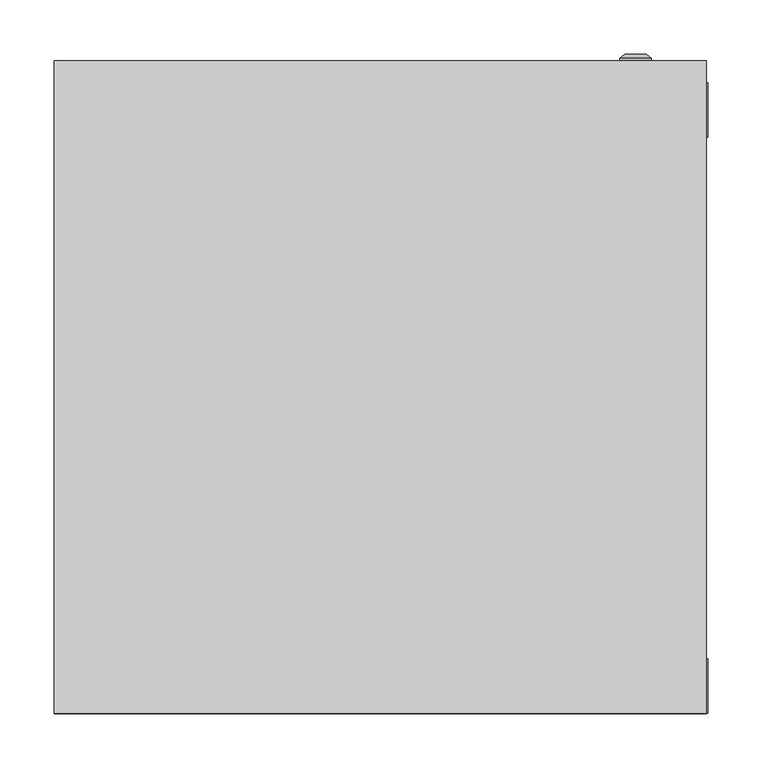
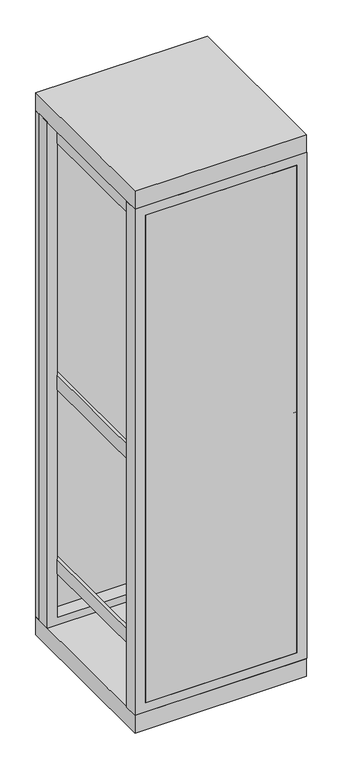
"""IFC4 building model written with IfcOpenShell, lengths in millimetres: proxy geometry, ВРУ-1 : ВРУ-1_2000х600х600."""

from ifc_helpers import new_model, si_unit, frame, origin, origin_with_axes, place, context, project, spatial, polyline, circle_curve, outline, extrude, source, transform, mapped, element, save
from ifc_brep_helpers import plane_surface, cylinder_surface, revolved_surface, advanced_brep


def electrical_equipment_4f927de0(model_context):
    return source(origin(), model_context, "Body", "SolidModel", [
        extrude(outline(polyline([(265.8707865, 0.0), (-263.3426966, 0.0), (-263.3426966, 10.0), (265.8707865, 10.0), (265.8707865, 0.0)])), frame((0.0, 0.0, 99.1378449), z_axis=(0.0, 0.0, 1.0), x_axis=(1.0, 0.0, 0.0)), (0.0, 0.0, 1.0), 1799.6160511),
        extrude(outline(polyline([(-255.8707865, 125.9831461), (-215.8707865, 125.9831461), (-215.8707865, 93.1179775), (-218.8707865, 93.1179775), (-218.8707865, 122.9831461), (-252.8707865, 122.9831461), (-252.8707865, 93.1179775), (-255.8707865, 93.1179775), (-255.8707865, 125.9831461)])), frame((0.0, 0.0, 189.6067416), z_axis=(0.0, 0.0, 1.0), x_axis=(1.0, 0.0, 0.0)), (0.0, 0.0, 1.0), 1745.3932584),
        extrude(outline(polyline([(215.8707865, 125.9831461), (255.8707865, 125.9831461), (255.8707865, 93.1179775), (252.8707865, 93.1179775), (252.8707865, 122.9831461), (218.8707865, 122.9831461), (218.8707865, 93.1179775), (215.8707865, 93.1179775), (215.8707865, 125.9831461)])), frame((0.0, 0.0, 189.6067416), z_axis=(0.0, 0.0, 1.0), x_axis=(1.0, 0.0, 0.0)), (0.0, 0.0, 1.0), 1745.3932584),
        extrude(outline(polyline([(-255.8707865, 10.0), (-265.8707865, 10.0), (-265.8707865, 580.0), (-255.8707865, 580.0), (-255.8707865, 10.0)])), frame((0.0, 0.0, 1845.5966059), z_axis=(0.0, 0.0, 1.0), x_axis=(1.0, 0.0, 0.0)), (0.0, 0.0, 1.0), 53.0898876),
        extrude(outline(polyline([(265.8707865, 10.0), (255.8707865, 10.0), (255.8707865, 580.0), (265.8707865, 580.0), (265.8707865, 10.0)])), frame((0.0, 0.0, 1845.5966059), z_axis=(0.0, 0.0, 1.0), x_axis=(1.0, 0.0, 0.0)), (0.0, 0.0, 1.0), 53.0898876),
        extrude(outline(polyline([(-255.8707865, 10.0), (-265.8707865, 10.0), (-265.8707865, 580.0), (-255.8707865, 580.0), (-255.8707865, 10.0)])), frame((0.0, 0.0, 255.5966059), z_axis=(0.0, 0.0, 1.0), x_axis=(1.0, 0.0, 0.0)), (0.0, 0.0, 1.0), 53.0898876),
        extrude(outline(polyline([(265.8707865, 10.0), (255.8707865, 10.0), (255.8707865, 580.0), (265.8707865, 580.0), (265.8707865, 10.0)])), frame((0.0, 0.0, 255.5966059), z_axis=(0.0, 0.0, 1.0), x_axis=(1.0, 0.0, 0.0)), (0.0, 0.0, 1.0), 53.0898876),
        extrude(outline(polyline([(-255.8707865, 10.0), (-265.8707865, 10.0), (-265.8707865, 580.0), (-255.8707865, 580.0), (-255.8707865, 10.0)])), frame((0.0, 0.0, 935.5966059), z_axis=(0.0, 0.0, 1.0), x_axis=(1.0, 0.0, 0.0)), (0.0, 0.0, 1.0), 53.0898876),
        extrude(outline(polyline([(265.8707865, 0.0), (255.8707865, 0.0), (255.8707865, 580.0), (265.8707865, 580.0), (265.8707865, 0.0)])), frame((0.0, 0.0, 935.5966059), z_axis=(0.0, 0.0, 1.0), x_axis=(1.0, 0.0, 0.0)), (0.0, 0.0, 1.0), 53.0898876),
        extrude(outline(polyline([(1934.1471543, -300.0), (65.0187804, -300.0), (65.0187804, 301.2640449), (1934.1471543, 301.2640449), (1934.1471543, -300.0)]), holes=[polyline([(99.1378449, 265.8707865), (99.1378449, -263.3426966), (1898.7538959, -263.3426966), (1898.7538959, 265.8707865), (99.1378449, 265.8707865)])]), frame((0.0, 0.0, 0.0), z_axis=(0.0, 1.0, 0.0), x_axis=(0.0, 0.0, 1.0)), (0.0, 0.0, 1.0), 50.0),
        extrude(outline(polyline([(1935.0, -300.0), (65.0187804, -300.0), (65.0187804, 301.2640449), (1935.0, 301.2640449), (1935.0, -300.0)]), holes=[polyline([(93.3701084, 265.8707865), (93.3701084, -263.3426966), (1892.9861595, -263.3426966), (1892.9861595, 265.8707865), (93.3701084, 265.8707865)])]), frame((0.0, 530.0, 0.0), z_axis=(0.0, 1.0, 0.0), x_axis=(0.0, 0.0, 1.0)), (0.0, 0.0, 1.0), 50.0),
        extrude(outline(polyline([(300.0067809, 600.0), (300.0067809, 0.0), (-300.0, 0.0), (-300.0, 600.0), (300.0067809, 600.0)])), frame((0.0, 0.0, 1935.0), z_axis=(0.0, 0.0, 1.0), x_axis=(1.0, 0.0, 0.0)), (0.0, 0.0, 1.0), 65.0),
        advanced_brep(
        [(220.669873, 600.0, 515.0), (249.330127, 600.0, 515.0), (235.0, 600.0, 515.0), (220.669873, 602.366592, 515.0), (249.330127, 602.366592, 515.0), (225.0, 606.0, 515.0), (245.0, 606.0, 515.0), (233.1080471, 606.0, 515.0), (236.8919529, 606.0, 515.0), (233.1080471, 604.9822294, 515.0), (236.8919529, 604.9822294, 515.0), (235.0, 604.9822294, 515.0)],
        [
            (0, 1, circle_curve(frame((235.0, 600.0, 515.0), z_axis=(0.0, -1.0, 0.0), x_axis=(1.0, 0.0, 0.0)), 14.330127)),
            (1, 2),
            (2, 0),
            (1, 0, circle_curve(frame((235.0, 600.0, 515.0), z_axis=(0.0, -1.0, 0.0), x_axis=(1.0, 0.0, 0.0)), 14.330127)),
            (3, 4, circle_curve(frame((235.0, 602.366592, 515.0), z_axis=(0.0, -1.0, 0.0), x_axis=(1.0, 0.0, 0.0)), 14.330127)),
            (4, 1),
            (0, 3),
            (4, 3, circle_curve(frame((235.0, 602.366592, 515.0), z_axis=(0.0, -1.0, 0.0), x_axis=(1.0, 0.0, 0.0)), 14.330127)),
            (5, 6, circle_curve(frame((235.0, 606.0, 515.0), z_axis=(0.0, -1.0, 0.0), x_axis=(1.0, 0.0, 0.0)), 10.0)),
            (6, 4),
            (3, 5),
            (6, 5, circle_curve(frame((235.0, 606.0, 515.0), z_axis=(0.0, -1.0, 0.0), x_axis=(1.0, 0.0, 0.0)), 10.0)),
            (7, 8, circle_curve(frame((235.0, 606.0, 515.0), z_axis=(0.0, -1.0, 0.0), x_axis=(1.0, 0.0, 0.0)), 1.8919529)),
            (8, 6),
            (5, 7),
            (8, 7, circle_curve(frame((235.0, 606.0, 515.0), z_axis=(0.0, -1.0, 0.0), x_axis=(1.0, 0.0, 0.0)), 1.8919529)),
            (9, 10, circle_curve(frame((235.0, 604.9822294, 515.0), z_axis=(0.0, -1.0, 0.0), x_axis=(1.0, 0.0, 0.0)), 1.8919529)),
            (10, 8),
            (7, 9),
            (10, 9, circle_curve(frame((235.0, 604.9822294, 515.0), z_axis=(0.0, -1.0, 0.0), x_axis=(1.0, 0.0, 0.0)), 1.8919529)),
            (11, 10),
            (9, 11),
        ],
        [
            plane_surface(frame((235.0, 600.0, 515.0), z_axis=(0.0, -1.0, 0.0), x_axis=(1.0, 0.0, 0.0))),
            cylinder_surface(frame((235.0, 613.1348851, 515.0), z_axis=(0.0, 1.0, 0.0), x_axis=(1.0, 0.0, 0.0)), 14.330127),
            revolved_surface(polyline([(249.330127, 602.366592, 515.0), (245.0, 606.0, 515.0)]), (235.0, 613.1348851, 515.0), (0.0, 1.0, 0.0)),
            plane_surface(frame((235.0, 606.0, 515.0), z_axis=(0.0, 1.0, 0.0), x_axis=(1.0, 0.0, 0.0))),
            revolved_surface(polyline([(236.8919529, 606.0, 515.0), (236.8919529, 604.9822294, 515.0)]), (235.0, 613.1348851, 515.0), (0.0, 1.0, 0.0)),
            plane_surface(frame((235.0, 604.9822294, 515.0), z_axis=(0.0, 1.0, 0.0), x_axis=(1.0, 0.0, 0.0))),
        ],
        [
            (0, [[1, 2, 3]]),
            (0, [[4, -3, -2]]),
            (1, [[5, 6, -1, 7]]),
            (1, [[8, -7, -4, -6]]),
            (2, [[9, 10, -5, 11]]),
            (2, [[12, -11, -8, -10]]),
            (3, [[13, 14, -9, 15]]),
            (3, [[16, -15, -12, -14]]),
            (4, [[17, 18, -13, 19]]),
            (4, [[20, -19, -16, -18]]),
            (5, [[21, -17, 22]]),
            (5, [[-22, -20, -21]]),
        ],
    ),
        advanced_brep(
        [(220.669873, 600.0, 1485.0), (249.330127, 600.0, 1485.0), (235.0, 600.0, 1485.0), (220.669873, 602.366592, 1485.0), (249.330127, 602.366592, 1485.0), (225.0, 606.0, 1485.0), (245.0, 606.0, 1485.0), (233.1080471, 606.0, 1485.0), (236.8919529, 606.0, 1485.0), (233.1080471, 604.9822294, 1485.0), (236.8919529, 604.9822294, 1485.0), (235.0, 604.9822294, 1485.0)],
        [
            (0, 1, circle_curve(frame((235.0, 600.0, 1485.0), z_axis=(0.0, -1.0, 0.0), x_axis=(1.0, 0.0, 0.0)), 14.330127)),
            (1, 2),
            (2, 0),
            (1, 0, circle_curve(frame((235.0, 600.0, 1485.0), z_axis=(0.0, -1.0, 0.0), x_axis=(1.0, 0.0, 0.0)), 14.330127)),
            (3, 4, circle_curve(frame((235.0, 602.366592, 1485.0), z_axis=(0.0, -1.0, 0.0), x_axis=(1.0, 0.0, 0.0)), 14.330127)),
            (4, 1),
            (0, 3),
            (4, 3, circle_curve(frame((235.0, 602.366592, 1485.0), z_axis=(0.0, -1.0, 0.0), x_axis=(1.0, 0.0, 0.0)), 14.330127)),
            (5, 6, circle_curve(frame((235.0, 606.0, 1485.0), z_axis=(0.0, -1.0, 0.0), x_axis=(1.0, 0.0, 0.0)), 10.0)),
            (6, 4),
            (3, 5),
            (6, 5, circle_curve(frame((235.0, 606.0, 1485.0), z_axis=(0.0, -1.0, 0.0), x_axis=(1.0, 0.0, 0.0)), 10.0)),
            (7, 8, circle_curve(frame((235.0, 606.0, 1485.0), z_axis=(0.0, -1.0, 0.0), x_axis=(1.0, 0.0, 0.0)), 1.8919529)),
            (8, 6),
            (5, 7),
            (8, 7, circle_curve(frame((235.0, 606.0, 1485.0), z_axis=(0.0, -1.0, 0.0), x_axis=(1.0, 0.0, 0.0)), 1.8919529)),
            (9, 10, circle_curve(frame((235.0, 604.9822294, 1485.0), z_axis=(0.0, -1.0, 0.0), x_axis=(1.0, 0.0, 0.0)), 1.8919529)),
            (10, 8),
            (7, 9),
            (10, 9, circle_curve(frame((235.0, 604.9822294, 1485.0), z_axis=(0.0, -1.0, 0.0), x_axis=(1.0, 0.0, 0.0)), 1.8919529)),
            (11, 10),
            (9, 11),
        ],
        [
            plane_surface(frame((235.0, 600.0, 1485.0), z_axis=(0.0, -1.0, 0.0), x_axis=(1.0, 0.0, 0.0))),
            cylinder_surface(frame((235.0, 613.1348851, 1485.0), z_axis=(0.0, 1.0, 0.0), x_axis=(1.0, 0.0, 0.0)), 14.330127),
            revolved_surface(polyline([(249.330127, 602.366592, 1485.0), (245.0, 606.0, 1485.0)]), (235.0, 613.1348851, 1485.0), (0.0, 1.0, 0.0)),
            plane_surface(frame((235.0, 606.0, 1485.0), z_axis=(0.0, 1.0, 0.0), x_axis=(1.0, 0.0, 0.0))),
            revolved_surface(polyline([(236.8919529, 606.0, 1485.0), (236.8919529, 604.9822294, 1485.0)]), (235.0, 613.1348851, 1485.0), (0.0, 1.0, 0.0)),
            plane_surface(frame((235.0, 604.9822294, 1485.0), z_axis=(0.0, 1.0, 0.0), x_axis=(1.0, 0.0, 0.0))),
        ],
        [
            (0, [[1, 2, 3]]),
            (0, [[4, -3, -2]]),
            (1, [[5, 6, -1, 7]]),
            (1, [[8, -7, -4, -6]]),
            (2, [[9, 10, -5, 11]]),
            (2, [[12, -11, -8, -10]]),
            (3, [[13, 14, -9, 15]]),
            (3, [[16, -15, -12, -14]]),
            (4, [[17, 18, -13, 19]]),
            (4, [[20, -19, -16, -18]]),
            (5, [[21, -17, 22]]),
            (5, [[-22, -20, -21]]),
        ],
    ),
        extrude(outline(polyline([(300.0067809, 600.0), (300.0067809, 0.0), (-300.0, 0.0), (-300.0, 600.0), (300.0067809, 600.0)])), origin_with_axes(), (0.0, 0.0, 1.0), 65.0187804),
        extrude(outline(polyline([(300.0, 580.0), (-300.0, 580.0), (-300.0, 600.0), (300.0, 600.0), (300.0, 580.0)])), frame((0.0, 0.0, 65.0187804), z_axis=(0.0, 0.0, 1.0), x_axis=(1.0, 0.0, 0.0)), (0.0, 0.0, 1.0), 1869.9812196),
    ])


if __name__ == "__main__":
    model = new_model("IFC4")
    model_context = context("Model", 3, world=origin())
    ifc_project = project(units=[si_unit("LENGTHUNIT", "METRE", prefix="MILLI")], contexts=[model_context])
    site = spatial("IfcSite", under=ifc_project)
    building = spatial("IfcBuilding", under=site)
    placement = place(None, origin())
    electrical_equipment_shape = electrical_equipment_4f927de0(model_context)
    element("IfcBuildingElementProxy", 1, Name="ВРУ-1 : ВРУ-1_2000х600х600", ObjectType="ВРУ-1 : ВРУ-1_2000х600х600", at=placement, inside=building, context=model_context, shape_type="MappedRepresentation", body=[
        mapped(electrical_equipment_shape, transform((0.0, 0.0, 0.0), x_axis=(1.0, 0.0, 0.0), y_axis=(0.0, 1.0, 0.0), z_axis=(0.0, 0.0, 1.0))),
    ])
    save(model, "model.ifc")
